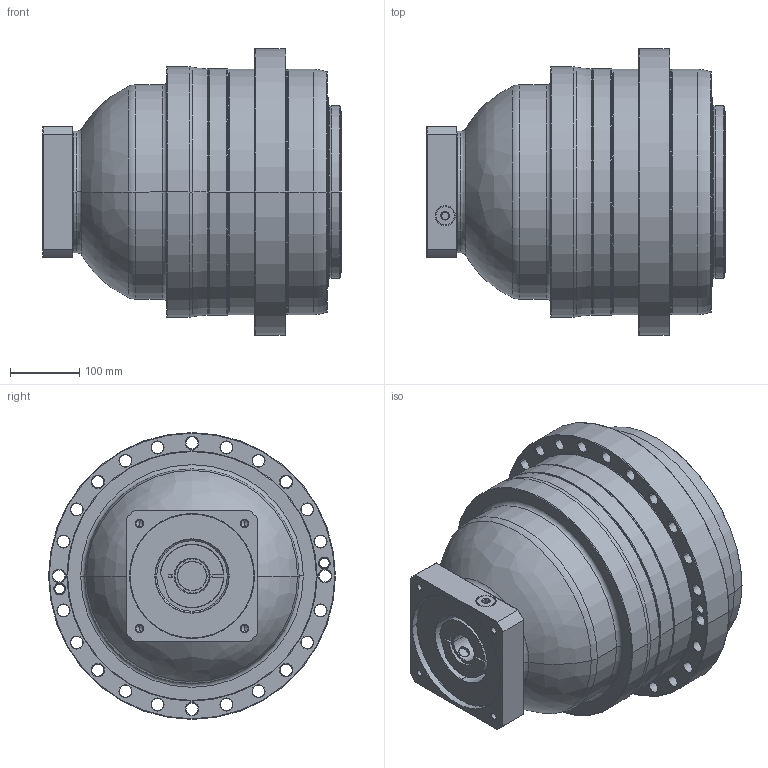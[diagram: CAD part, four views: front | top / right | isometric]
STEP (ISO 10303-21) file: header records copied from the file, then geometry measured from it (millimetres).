
FILE_DESCRIPTION((''),'2;1');
FILE_NAME('AP355_3ST_42-P0409A00201_ASM','2018-06-08T',('d01226'),(''),'PRO/ENGINEER BY PARAMETRIC TECHNOLOGY CORPORATION, 2008410','PRO/ENGINEER BY PARAMETRIC TECHNOLOGY CORPORATION, 2008410','');
FILE_SCHEMA(('CONFIG_CONTROL_DESIGN'));
Length unit declared in the file: millimetre
Products named in the file (9): P0276101003; P0357101103; P1366900301; P0503A00012; P0912603001; P1222100001; P0409A00201; 21711422019; AP355_3ST_42-P0409A00201_ASM
Assembly tree (8 placements, depth 2):
  AP355_3ST_42-P0409A00201_ASM
    P0276101003
    P0357101103
    P1366900301
    P0503A00012
    P0912603001
    P1222100001
    P0409A00201
    21711422019
Bounding box: 431.5 x 415 x 415 mm (x, y, z)
Volume: 28545428.9 mm3; surface area: 1384266.9 mm2
Topology: 9 solids, 34 shells, 648 faces, 1497 edges, 918 vertices
Faces by surface type: cylinder 268, cone 178, plane 106, torus 82, bspline 14
Entity records: 23304 total; most frequent: CARTESIAN_POINT 7749, DIRECTION 3591, ORIENTED_EDGE 2878, AXIS2_PLACEMENT_3D 1540, EDGE_CURVE 1489, VERTEX_POINT 918, CIRCLE 879, EDGE_LOOP 807
